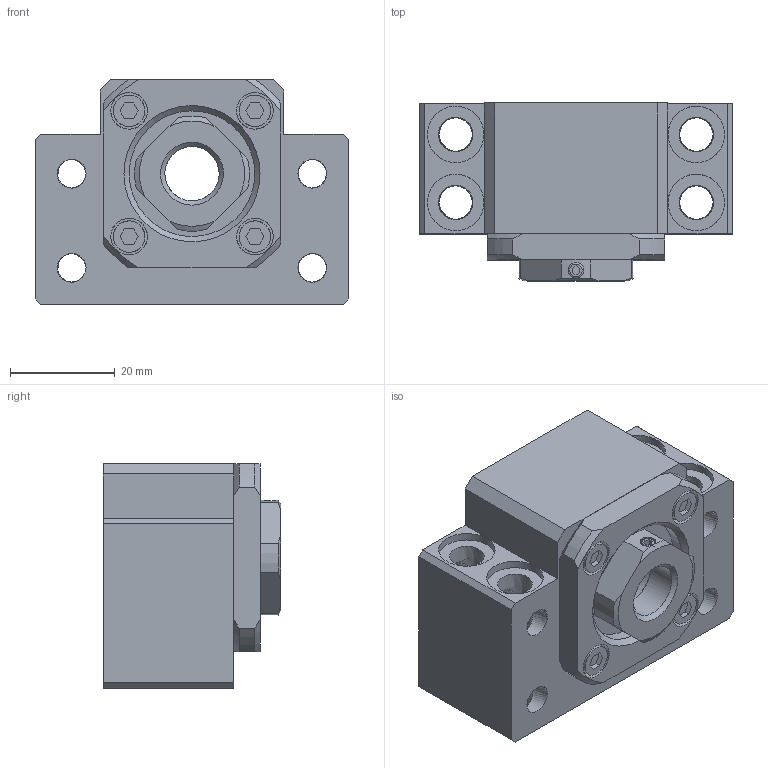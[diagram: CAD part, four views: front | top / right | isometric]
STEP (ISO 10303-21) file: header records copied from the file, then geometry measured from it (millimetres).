
FILE_DESCRIPTION( ('This file contains a STEP AP42 implementation' ,'as created by ZW3D STEP Interface translator.') ,'2;1' );
FILE_NAME( 'FC2A1A7D-42B0-ED79-7572-FFE77A12981D.stp' ,'18 315.17 9 9', (''), ('ZWCAD Software Co.'), 'Version 1.0', 'ZW3D to STEP translator', '' );
FILE_SCHEMA( ('CONFIG_CONTROL_DESIGN') );
Length unit declared in the file: millimetre
Products named in the file (4): 0; FSFBK-12; _BK 12collar; _BK 12
Assembly tree (2 placements, depth 2):
  0
  FSFBK-12
    _BK 12collar
    _BK 12
Bounding box: 60 x 34 x 43 mm (x, y, z)
Volume: 54493.7 mm3; surface area: 20156.7 mm2
Topology: 2 solids, 3 shells, 161 faces, 412 edges, 275 vertices
Faces by surface type: bspline 161
Entity records: 6373 total; most frequent: CARTESIAN_POINT 3623, ORIENTED_EDGE 824, EDGE_CURVE 412, B_SPLINE_CURVE_WITH_KNOTS 296, VERTEX_POINT 275, EDGE_LOOP 215, FACE_OUTER_BOUND 161, ADVANCED_FACE 161
